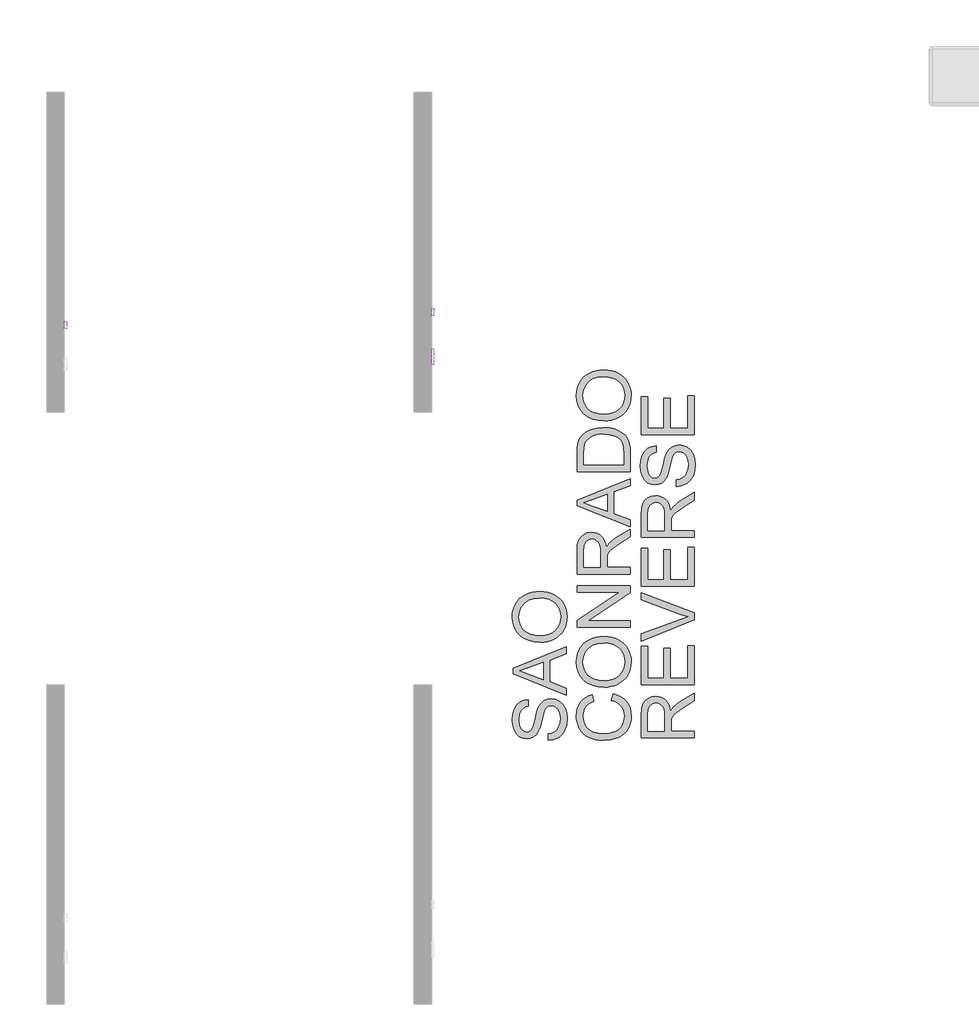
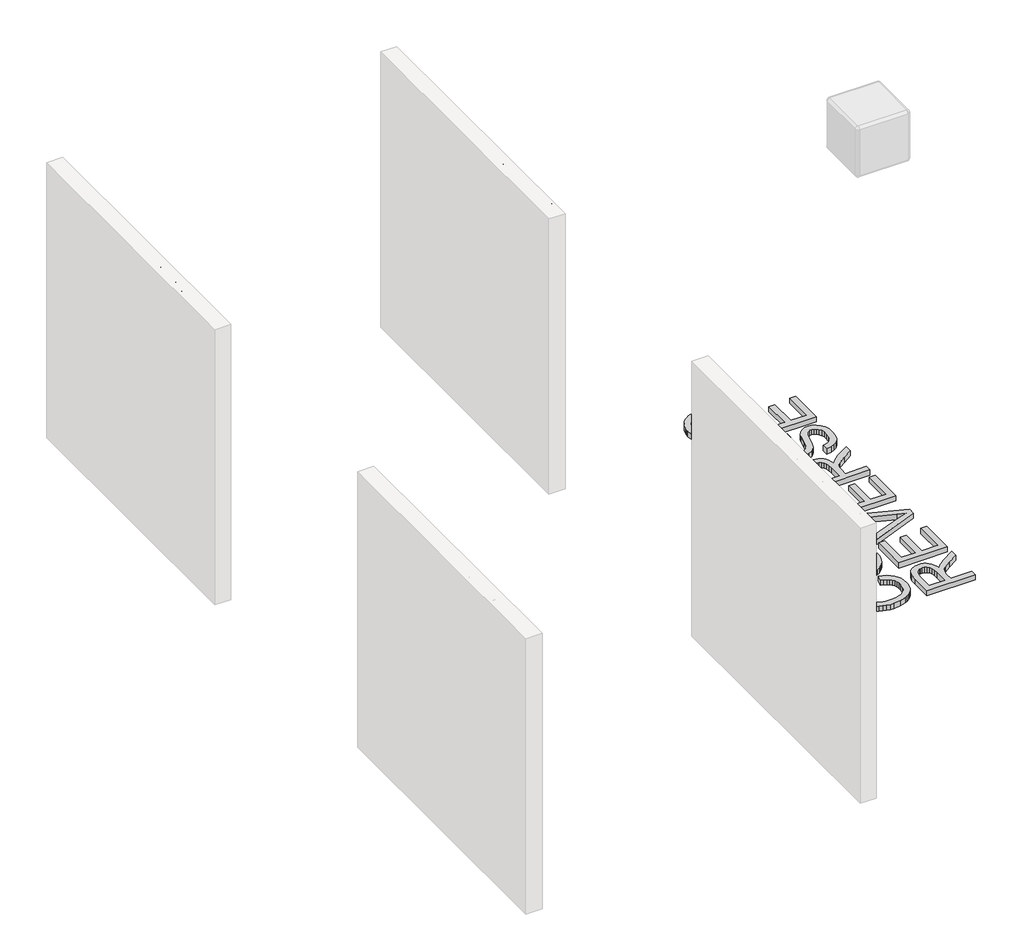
# One storey, part 6 of 7: 4 proxies.
"""IFC4 building model written with IfcOpenShell, lengths in millimetres."""

from ifc_helpers import new_model, si_unit, frame, origin, origin_with_axes, place, context, project, spatial, polyline, outline, extrude, element, save

model = new_model("IFC4")

# Units and contexts
model_context = context("Model", 3, world=origin())
ifc_project = project(units=[si_unit("LENGTHUNIT", "METRE", prefix="MILLI")], contexts=[model_context])

# Site, building, storey
site = spatial("IfcSite", under=ifc_project)
building = spatial("IfcBuilding", under=site)
storey = spatial("IfcBuildingStorey", under=building, Name="PORTOBELLO - SHOWROOM", Elevation=0.0)

# Proxies
placement = place(None, origin())
element("IfcBuildingElementProxy", 1, Name="10mm Arial", ObjectType="10mm Arial", at=placement, inside=storey, context=model_context, shape_type="SweptSolid", body=[
    extrude(outline(polyline([(5999.2437115, 2593.9527041), (6002.5914377, 2616.1666452), (6012.6346161, 2632.972721), (6027.969164, 2643.5493284), (6047.1909982, 2647.0748642), (6060.367305, 2645.4193952), (6072.1824484, 2640.4529883), (6081.992635, 2632.5251313), (6089.1540711, 2621.9853121), (6093.5318669, 2609.3424342), (6094.9911321, 2595.105401), (6093.4552248, 2580.6782954), (6088.8475028, 2567.8576079), (6081.4224179, 2557.2993946), (6071.4344217, 2549.6597119), (6059.7204458, 2545.0243987), (6047.1174218, 2543.4792944), (6033.7387799, 2545.1868799), (6021.8561915, 2550.3096367), (6012.0705304, 2558.3846465), (6004.9826706, 2568.9489912), (5999.2437115, 2593.9527041)]), holes=[polyline([(6011.8007503, 2593.8300768), (6014.3115449, 2578.1153842), (6021.8439287, 2566.1408253), (6033.1654971, 2558.5624562), (6047.0438454, 2556.0363331), (6061.1245288, 2558.5869816), (6072.4644913, 2566.2389271), (6079.9416928, 2578.5813681), (6082.4340934, 2595.2035029), (6078.1666622, 2615.9275219), (6065.6954626, 2629.6495204), (6047.2645746, 2634.5178254), (6033.757174, 2632.1725777), (6022.2731244, 2625.1368345), (6014.4188438, 2612.6196497), (6011.8007503, 2593.8300768)])]), frame((47110.9355471, 0.0, 0.0), z_axis=(1.0, 0.0, 0.0), x_axis=(0.0, 1.0, 0.0)), (0.0, 0.0, 1.0), 20.0),
    extrude(outline(polyline([(6154.6370663, 2545.0489242), (6154.6370663, 2606.2644882), (6143.6496573, 2606.2644882), (6143.6496573, 2618.821527), (6154.6370663, 2618.821527), (6154.6370663, 2626.2527433), (6155.9614415, 2636.7251174), (6162.3871136, 2644.2053846), (6175.0422543, 2647.0748642), (6186.4956471, 2645.7014381), (6184.6562371, 2633.9292142), (6177.4212245, 2634.5178254), (6169.5117616, 2632.4331608), (6167.194105, 2624.658588), (6167.194105, 2618.821527), (6181.3207737, 2618.821527), (6181.3207737, 2606.2644882), (6167.194105, 2606.2644882), (6167.194105, 2545.0489242), (6154.6370663, 2545.0489242)])), frame((47110.9355471, 0.0, 0.0), z_axis=(1.0, 0.0, 0.0), x_axis=(0.0, 1.0, 0.0)), (0.0, 0.0, 1.0), 20.0),
    extrude(outline(polyline([(6113.8266903, 2545.0489242), (6113.8266903, 2606.2644882), (6102.8392813, 2606.2644882), (6102.8392813, 2618.821527), (6113.8266903, 2618.821527), (6113.8266903, 2626.2527433), (6115.1510655, 2636.7251174), (6121.5767376, 2644.2053846), (6134.2318783, 2647.0748642), (6145.6852711, 2645.7014381), (6143.8458611, 2633.9292142), (6136.6108485, 2634.5178254), (6128.7013856, 2632.4331608), (6126.383729, 2624.658588), (6126.383729, 2618.821527), (6140.5103977, 2618.821527), (6140.5103977, 2606.2644882), (6126.383729, 2606.2644882), (6126.383729, 2545.0489242), (6113.8266903, 2545.0489242)])), frame((47110.9355471, 0.0, 0.0), z_axis=(1.0, 0.0, 0.0), x_axis=(0.0, 1.0, 0.0)), (0.0, 0.0, 1.0), 20.0),
    extrude(outline(polyline([(6251.0957254, 2545.0489242), (6223.7007795, 2645.5052343), (6236.6502257, 2645.5052343), (6252.5427279, 2579.4826789), (6257.4478212, 2559.1020164), (6262.696271, 2577.1282342), (6282.6109497, 2645.5052343), (6301.2748295, 2645.5052343), (6315.7448547, 2595.9392669), (6326.5115344, 2559.1020164), (6331.2694749, 2578.8940678), (6347.3091299, 2645.5052343), (6360.2585761, 2645.5052343), (6332.8391047, 2545.0489242), (6319.4236746, 2545.0489242), (6295.3396667, 2622.5493978), (6291.9796778, 2633.3651285), (6288.202756, 2620.3421059), (6266.2524636, 2545.0489242), (6251.0957254, 2545.0489242)])), frame((47110.9355471, 0.0, 0.0), z_axis=(1.0, 0.0, 0.0), x_axis=(0.0, 1.0, 0.0)), (0.0, 0.0, 1.0), 20.0),
    extrude(outline(polyline([(6371.245985, 2545.0489242), (6371.245985, 2645.5052343), (6383.8030238, 2645.5052343), (6383.8030238, 2608.569882), (6393.5948162, 2617.4358381), (6405.6552143, 2620.3911568), (6419.7573575, 2617.166058), (6428.3167452, 2608.251051), (6430.8919192, 2591.7454121), (6430.8919192, 2545.0489242), (6418.3348804, 2545.0489242), (6418.3348804, 2590.4455624), (6414.3372294, 2603.6893142), (6403.0064639, 2607.834118), (6392.7180308, 2605.0382149), (6385.8509002, 2597.4598458), (6383.8030238, 2584.2406194), (6383.8030238, 2545.0489242), (6371.245985, 2545.0489242)])), frame((47110.9355471, 0.0, 0.0), z_axis=(1.0, 0.0, 0.0), x_axis=(0.0, 1.0, 0.0)), (0.0, 0.0, 1.0), 20.0),
    extrude(outline(polyline([(47130.9355471, 6460.7148863), (47130.9355471, 6448.1578475), (47110.9355471, 6448.1578475), (47110.9355471, 6460.7148863), (47130.9355471, 6460.7148863)])), frame((0.0, 0.0, 2632.9481956), z_axis=(0.0, 0.0, 1.0), x_axis=(1.0, 0.0, 0.0)), (0.0, 0.0, 1.0), 12.5570388),
    extrude(outline(polyline([(47130.9355471, 6460.7148863), (47130.9355471, 6448.1578475), (47110.9355471, 6448.1578475), (47110.9355471, 6460.7148863), (47130.9355471, 6460.7148863)])), frame((0.0, 0.0, 2545.0489242), z_axis=(0.0, 0.0, 1.0), x_axis=(1.0, 0.0, 0.0)), (0.0, 0.0, 1.0), 73.7726028),
    extrude(outline(polyline([(6506.2341518, 2555.5212983), (6507.8037816, 2544.6810422), (6498.410528, 2543.4792944), (6487.889103, 2545.563959), (6482.6406532, 2551.033138), (6481.1200743, 2565.2824339), (6481.1200743, 2606.2644882), (6471.7022952, 2606.2644882), (6471.7022952, 2618.821527), (6481.1200743, 2618.821527), (6481.1200743, 2636.7496429), (6493.677113, 2644.1318082), (6493.677113, 2618.821527), (6506.2341518, 2618.821527), (6506.2341518, 2606.2644882), (6493.677113, 2606.2644882), (6493.677113, 2565.6503159), (6494.3393006, 2559.1755928), (6496.4852789, 2556.8824617), (6500.7649728, 2556.0363331), (6506.2341518, 2555.5212983)])), frame((47110.9355471, 0.0, 0.0), z_axis=(1.0, 0.0, 0.0), x_axis=(0.0, 1.0, 0.0)), (0.0, 0.0, 1.0), 20.0),
    extrude(outline(polyline([(6570.4418227, 2567.023742), (6582.7536068, 2565.4541122), (6578.3175631, 2556.1773546), (6571.2389003, 2549.2427789), (6561.6770342, 2544.9201655), (6549.79138, 2543.4792944), (6535.0577061, 2545.9655635), (6523.7208093, 2553.424371), (6516.4919281, 2565.3713387), (6514.082301, 2581.3220889), (6516.5164536, 2597.8093337), (6523.8189112, 2610.1395119), (6535.0025238, 2617.8282456), (6549.0801415, 2620.3911568), (6562.7193665, 2617.8343769), (6573.6178706, 2610.1640373), (6580.7639783, 2597.8583846), (6583.1460143, 2581.3956653), (6583.0724379, 2578.011151), (6526.6393398, 2578.011151), (6528.8129092, 2568.611766), (6533.8620896, 2561.7017158), (6541.1492188, 2557.4526788), (6550.0366347, 2556.0363331), (6562.3484188, 2558.660558), (6570.4418227, 2567.023742)]), holes=[polyline([(6526.6393398, 2590.5681897), (6570.5889755, 2590.5681897), (6565.5612549, 2601.9480061), (6558.2404032, 2606.3625901), (6549.0310906, 2607.834118), (6533.567784, 2603.1374912), (6528.7025446, 2597.6468525), (6526.6393398, 2590.5681897)])]), frame((47110.9355471, 0.0, 0.0), z_axis=(1.0, 0.0, 0.0), x_axis=(0.0, 1.0, 0.0)), (0.0, 0.0, 1.0), 20.0),
])
element("IfcBuildingElementProxy", 2, Name="10mm Arial Narrow", ObjectType="10mm Arial Narrow", at=placement, inside=storey, context=model_context, shape_type="SweptSolid", body=[
    extrude(outline(polyline([(6636.0876602, 2545.0489242), (6636.0876602, 2645.767528), (6667.3845449, 2645.767528), (6683.6802464, 2643.8892072), (6695.1532325, 2634.408764), (6699.4429109, 2617.3896552), (6697.6566025, 2605.3138297), (6692.2976773, 2595.6874359), (6682.5538885, 2589.3861775), (6667.6129893, 2587.285758), (6645.8346218, 2587.285758), (6645.8346218, 2545.0489242), (6636.0876602, 2545.0489242)]), holes=[polyline([(6645.8346218, 2598.6572133), (6668.8059768, 2598.6572133), (6684.6701722, 2603.1880275), (6689.6959493, 2616.8566183), (6687.2211348, 2627.0223947), (6681.243506, 2632.8223445), (6668.5775323, 2634.3960727), (6645.8346218, 2634.3960727), (6645.8346218, 2598.6572133)])]), frame((47110.9355471, 0.0, 0.0), z_axis=(1.0, 0.0, 0.0), x_axis=(0.0, 1.0, 0.0)), (0.0, 0.0, 1.0), 20.0),
    extrude(outline(polyline([(6707.565379, 2581.6000304), (6709.5198478, 2598.1908059), (6715.3832545, 2610.1428908), (6724.2418212, 2617.3674453), (6735.1817703, 2619.7756302), (6745.9948059, 2617.3674453), (6754.8787553, 2610.1428908), (6760.8183101, 2598.3811763), (6762.7981617, 2582.3615118), (6760.8532113, 2565.1996252), (6755.0183602, 2553.05717), (6746.169312, 2545.8326155), (6735.1817703, 2543.4244306), (6724.3211421, 2545.8389611), (6715.4467112, 2553.0825527), (6709.535712, 2565.0409832), (6707.565379, 2581.6000304)]), holes=[polyline([(6717.3123406, 2581.6254131), (6718.6163775, 2569.0736617), (6722.5284881, 2560.2024036), (6728.3696848, 2554.9291451), (6735.4609802, 2553.1713922), (6742.1810533, 2554.9450093), (6747.8731266, 2560.2658604), (6751.7566817, 2569.1529827), (6753.0512, 2581.6254131), (6751.7471631, 2594.1390904), (6747.8350526, 2602.9976572), (6741.9938558, 2608.2709157), (6734.9025605, 2610.0286686), (6728.1348947, 2608.2613972), (6722.4523399, 2602.9595831), (6718.5973404, 2594.0914979), (6717.3123406, 2581.6254131)])]), frame((47110.9355471, 0.0, 0.0), z_axis=(1.0, 0.0, 0.0), x_axis=(0.0, 1.0, 0.0)), (0.0, 0.0, 1.0), 20.0),
    extrude(outline(polyline([(6834.2758805, 2553.1713922), (6835.9003741, 2543.4244306), (6828.5393874, 2543.4244306), (6820.2646231, 2545.5438871), (6815.9495619, 2551.3438369), (6814.7819571, 2565.9896621), (6814.7819571, 2608.4041749), (6806.6594891, 2608.4041749), (6806.6594891, 2611.6531622), (6805.0349955, 2606.7796813), (6797.4709471, 2608.4041749), (6791.3917875, 2606.0816567), (6787.5209238, 2599.5963737), (6785.5410722, 2584.1890671), (6785.5410722, 2545.0489242), (6775.7941105, 2545.0489242), (6775.7941105, 2618.1511366), (6785.5410722, 2618.1511366), (6785.5410722, 2608.4549404), (6791.7852195, 2617.5419515), (6798.1816631, 2619.7756302), (6806.6594891, 2618.1511366), (6814.7819571, 2618.1511366), (6814.7819571, 2634.3960727), (6824.5289188, 2642.5185407), (6824.5289188, 2618.1511366), (6834.2758805, 2618.1511366), (6834.2758805, 2608.4041749), (6824.5289188, 2608.4041749), (6824.5289188, 2563.7559834), (6825.391931, 2555.7604289), (6830.0115847, 2553.1713922), (6834.2758805, 2553.1713922)])), frame((47110.9355471, 0.0, 0.0), z_axis=(1.0, 0.0, 0.0), x_axis=(0.0, 1.0, 0.0)), (0.0, 0.0, 1.0), 20.0),
    extrude(outline(polyline([(6840.7738549, 2581.6000304), (6842.7283238, 2598.1908059), (6848.5917304, 2610.1428908), (6857.4502971, 2617.3674453), (6868.3902462, 2619.7756302), (6879.2032818, 2617.3674453), (6888.0872313, 2610.1428908), (6894.026786, 2598.3811763), (6896.0066376, 2582.3615118), (6894.0616872, 2565.1996252), (6888.2268362, 2553.05717), (6879.377788, 2545.8326155), (6868.3902462, 2543.4244306), (6857.5296181, 2545.8389611), (6848.6551872, 2553.0825527), (6842.744188, 2565.0409832), (6840.7738549, 2581.6000304)]), holes=[polyline([(6850.5208165, 2581.6254131), (6851.8248534, 2569.0736617), (6855.736964, 2560.2024036), (6861.5781607, 2554.9291451), (6868.6694561, 2553.1713922), (6875.3895293, 2554.9450093), (6881.0816026, 2560.2658604), (6884.9651576, 2569.1529827), (6886.2596759, 2581.6254131), (6884.9556391, 2594.1390904), (6881.0435285, 2602.9976572), (6875.2023317, 2608.2709157), (6868.1110364, 2610.0286686), (6861.3433706, 2608.2613972), (6855.6608159, 2602.9595831), (6851.8058164, 2594.0914979), (6850.5208165, 2581.6254131)])]), frame((47110.9355471, 0.0, 0.0), z_axis=(1.0, 0.0, 0.0), x_axis=(0.0, 1.0, 0.0)), (0.0, 0.0, 1.0), 20.0),
    extrude(outline(polyline([(6918.7495481, 2545.0489242), (6909.0025865, 2545.0489242), (6909.0025865, 2645.767528), (6918.7495481, 2645.767528), (6918.7495481, 2610.3586438), (6926.1486089, 2617.4404206), (6935.3498422, 2619.7756302), (6948.2315689, 2615.5747913), (6957.5089503, 2602.8453609), (6960.986382, 2582.1584501), (6959.054123, 2565.7041066), (6953.257346, 2553.5013675), (6944.8842236, 2545.9436648), (6935.2229286, 2543.4244306), (6925.8820904, 2546.03885), (6918.7495481, 2553.8059601), (6918.7495481, 2545.0489242)]), holes=[polyline([(6918.7495481, 2582.1584501), (6920.8309306, 2564.9108968), (6926.7197199, 2556.1792437), (6935.1721632, 2553.1713922), (6941.1148908, 2554.9608735), (6946.3532481, 2560.3293172), (6951.2394203, 2581.7523267), (6946.5309271, 2603.1880275), (6941.2862241, 2608.3185083), (6934.9691015, 2610.0286686), (6928.9914727, 2608.2391873), (6923.6991771, 2602.8707436), (6918.7495481, 2582.1584501)])]), frame((47110.9355471, 0.0, 0.0), z_axis=(1.0, 0.0, 0.0), x_axis=(0.0, 1.0, 0.0)), (0.0, 0.0, 1.0), 20.0),
    extrude(outline(polyline([(7012.9701774, 2567.7918347), (7022.7171391, 2566.1673411), (7019.0176087, 2556.2807745), (7013.1986219, 2549.1609236), (7005.4949686, 2544.8585539), (6996.141439, 2543.4244306), (6984.547885, 2545.8389611), (6975.4037627, 2553.0825527), (6969.464208, 2564.888687), (6967.4843564, 2580.9908453), (6969.4737265, 2597.657769), (6975.4418368, 2609.8382982), (6984.4558726, 2617.2912972), (6995.5830193, 2619.7756302), (7006.2659685, 2617.3769639), (7015.0134858, 2610.1809648), (7020.8483369, 2598.4414602), (7022.7932872, 2582.4122772), (7022.7171391, 2579.16329), (6977.231318, 2579.16329), (6983.2343296, 2559.7201321), (6989.1643658, 2554.8085772), (6996.2683525, 2553.1713922), (7006.4468203, 2556.8265029), (7012.9701774, 2567.7918347)]), holes=[polyline([(6977.8912686, 2588.9102516), (7012.9701774, 2588.9102516), (7008.7058817, 2603.1753361), (7002.8805492, 2608.3153355), (6995.6591674, 2610.0286686), (6983.4500826, 2604.3175582), (6977.8912686, 2588.9102516)])]), frame((47110.9355471, 0.0, 0.0), z_axis=(1.0, 0.0, 0.0), x_axis=(0.0, 1.0, 0.0)), (0.0, 0.0, 1.0), 20.0),
    extrude(outline(polyline([(47130.9355471, 7045.4600496), (47130.9355471, 7035.713088), (47110.9355471, 7035.713088), (47110.9355471, 7045.4600496), (47130.9355471, 7045.4600496)])), frame((0.0, 0.0, 2545.0489242), z_axis=(0.0, 0.0, 1.0), x_axis=(1.0, 0.0, 0.0)), (0.0, 0.0, 1.0), 100.7186038),
    extrude(outline(polyline([(47130.9355471, 7071.4519474), (47130.9355471, 7061.7049857), (47110.9355471, 7061.7049857), (47110.9355471, 7071.4519474), (47130.9355471, 7071.4519474)])), frame((0.0, 0.0, 2545.0489242), z_axis=(0.0, 0.0, 1.0), x_axis=(1.0, 0.0, 0.0)), (0.0, 0.0, 1.0), 100.7186038),
    extrude(outline(polyline([(7082.8234026, 2581.6000304), (7084.7778715, 2598.1908059), (7090.6412781, 2610.1428908), (7099.4998448, 2617.3674453), (7110.439794, 2619.7756302), (7121.2528296, 2617.3674453), (7130.136779, 2610.1428908), (7136.0763337, 2598.3811763), (7138.0561853, 2582.3615118), (7136.111235, 2565.1996252), (7130.2763839, 2553.05717), (7121.4273357, 2545.8326155), (7110.439794, 2543.4244306), (7099.5791658, 2545.8389611), (7090.7047349, 2553.0825527), (7084.7937357, 2565.0409832), (7082.8234026, 2581.6000304)]), holes=[polyline([(7092.5703643, 2581.6254131), (7093.8744011, 2569.0736617), (7097.7865117, 2560.2024036), (7103.6277085, 2554.9291451), (7110.7190038, 2553.1713922), (7117.439077, 2554.9450093), (7123.1311503, 2560.2658604), (7127.0147053, 2569.1529827), (7128.3092237, 2581.6254131), (7127.0051868, 2594.1390904), (7123.0930762, 2602.9976572), (7117.2518795, 2608.2709157), (7110.1605841, 2610.0286686), (7103.3929184, 2608.2613972), (7097.7103636, 2602.9595831), (7093.8553641, 2594.0914979), (7092.5703643, 2581.6254131)])]), frame((47110.9355471, 0.0, 0.0), z_axis=(1.0, 0.0, 0.0), x_axis=(0.0, 1.0, 0.0)), (0.0, 0.0, 1.0), 20.0),
])
element("IfcBuildingElementProxy", 3, Name="10mm Arial Narrow", ObjectType="10mm Arial Narrow", at=placement, inside=storey, context=model_context, shape_type="SweptSolid", body=[
    extrude(outline(polyline([(6527.3853689, 2540.5717262), (6527.3853689, 2641.29033), (6558.6822536, 2641.29033), (6574.9779551, 2639.4120093), (6586.4509412, 2629.9315661), (6590.7406197, 2612.9124573), (6588.9543113, 2600.8366317), (6583.5953861, 2591.210238), (6573.8515972, 2584.9089795), (6558.910698, 2582.8085601), (6537.1323306, 2582.8085601), (6537.1323306, 2540.5717262), (6527.3853689, 2540.5717262)]), holes=[polyline([(6537.1323306, 2594.1800153), (6560.1036855, 2594.1800153), (6575.9678809, 2598.7108295), (6580.993658, 2612.3794203), (6578.5188435, 2622.5451967), (6572.5412147, 2628.3451466), (6559.8752411, 2629.9188747), (6537.1323306, 2629.9188747), (6537.1323306, 2594.1800153)])]), frame((44010.9355471, 0.0, 0.0), z_axis=(1.0, 0.0, 0.0), x_axis=(0.0, 1.0, 0.0)), (0.0, 0.0, 1.0), 20.0),
    extrude(outline(polyline([(6598.8630877, 2577.1228324), (6600.8175566, 2593.713608), (6606.6809632, 2605.6656928), (6615.5395299, 2612.8902474), (6626.4794791, 2615.2984323), (6637.2925146, 2612.8902474), (6646.1764641, 2605.6656928), (6652.1160188, 2593.9039783), (6654.0958704, 2577.8843138), (6652.1509201, 2560.7224272), (6646.316069, 2548.5799721), (6637.4670208, 2541.3554175), (6626.4794791, 2538.9472326), (6615.6188509, 2541.3617632), (6606.74442, 2548.6053548), (6600.8334208, 2560.5637853), (6598.8630877, 2577.1228324)]), holes=[polyline([(6608.6100494, 2577.1482152), (6609.9140862, 2564.5964638), (6613.8261968, 2555.7252057), (6619.6673935, 2550.4519471), (6626.7586889, 2548.6941943), (6633.4787621, 2550.4678113), (6639.1708354, 2555.7886625), (6643.0543904, 2564.6757847), (6644.3489088, 2577.1482152), (6643.0448719, 2589.6618925), (6639.1327613, 2598.5204592), (6633.2915646, 2603.7937178), (6626.2002692, 2605.5514706), (6619.4326035, 2603.7841992), (6613.7500487, 2598.4823851), (6609.8950492, 2589.6142999), (6608.6100494, 2577.1482152)])]), frame((44010.9355471, 0.0, 0.0), z_axis=(1.0, 0.0, 0.0), x_axis=(0.0, 1.0, 0.0)), (0.0, 0.0, 1.0), 20.0),
    extrude(outline(polyline([(6725.5735892, 2548.6941943), (6727.1980828, 2538.9472326), (6719.8370961, 2538.9472326), (6711.5623318, 2541.0666891), (6707.2472707, 2546.866639), (6706.0796659, 2561.5124642), (6706.0796659, 2603.926977), (6697.9571978, 2603.926977), (6697.9571978, 2607.1759642), (6696.3327042, 2602.3024834), (6688.7686559, 2603.926977), (6682.6894962, 2601.6044588), (6678.8186325, 2595.1191757), (6676.8387809, 2579.7118691), (6676.8387809, 2540.5717262), (6667.0918193, 2540.5717262), (6667.0918193, 2613.6739386), (6676.8387809, 2613.6739386), (6676.8387809, 2603.9777424), (6683.0829282, 2613.0647535), (6689.4793718, 2615.2984323), (6697.9571978, 2613.6739386), (6706.0796659, 2613.6739386), (6706.0796659, 2629.9188747), (6715.8266275, 2638.0413428), (6715.8266275, 2613.6739386), (6725.5735892, 2613.6739386), (6725.5735892, 2603.926977), (6715.8266275, 2603.926977), (6715.8266275, 2559.2787855), (6716.6896398, 2551.283231), (6721.3092935, 2548.6941943), (6725.5735892, 2548.6941943)])), frame((44010.9355471, 0.0, 0.0), z_axis=(1.0, 0.0, 0.0), x_axis=(0.0, 1.0, 0.0)), (0.0, 0.0, 1.0), 20.0),
    extrude(outline(polyline([(6732.0715636, 2577.1228324), (6734.0260325, 2593.713608), (6739.8894391, 2605.6656928), (6748.7480058, 2612.8902474), (6759.687955, 2615.2984323), (6770.5009906, 2612.8902474), (6779.38494, 2605.6656928), (6785.3244948, 2593.9039783), (6787.3043463, 2577.8843138), (6785.359396, 2560.7224272), (6779.5245449, 2548.5799721), (6770.6754967, 2541.3554175), (6759.687955, 2538.9472326), (6748.8273268, 2541.3617632), (6739.9528959, 2548.6053548), (6734.0418967, 2560.5637853), (6732.0715636, 2577.1228324)]), holes=[polyline([(6741.8185253, 2577.1482152), (6743.1225621, 2564.5964638), (6747.0346727, 2555.7252057), (6752.8758695, 2550.4519471), (6759.9671648, 2548.6941943), (6766.687238, 2550.4678113), (6772.3793113, 2555.7886625), (6776.2628663, 2564.6757847), (6777.5573847, 2577.1482152), (6776.2533478, 2589.6618925), (6772.3412372, 2598.5204592), (6766.5000405, 2603.7937178), (6759.4087451, 2605.5514706), (6752.6410794, 2603.7841992), (6746.9585246, 2598.4823851), (6743.1035251, 2589.6142999), (6741.8185253, 2577.1482152)])]), frame((44010.9355471, 0.0, 0.0), z_axis=(1.0, 0.0, 0.0), x_axis=(0.0, 1.0, 0.0)), (0.0, 0.0, 1.0), 20.0),
    extrude(outline(polyline([(6810.0472569, 2540.5717262), (6800.3002952, 2540.5717262), (6800.3002952, 2641.29033), (6810.0472569, 2641.29033), (6810.0472569, 2605.8814459), (6817.4463176, 2612.9632227), (6826.6475509, 2615.2984323), (6839.5292776, 2611.0975933), (6848.8066591, 2598.3681629), (6852.2840907, 2577.6812521), (6850.3518317, 2561.2269087), (6844.5550547, 2549.0241696), (6836.1819324, 2541.4664669), (6826.5206374, 2538.9472326), (6817.1797991, 2541.561652), (6810.0472569, 2549.3287621), (6810.0472569, 2540.5717262)]), holes=[polyline([(6810.0472569, 2577.6812521), (6812.1286393, 2560.4336989), (6818.0174286, 2551.7020457), (6826.4698719, 2548.6941943), (6832.4125995, 2550.4836755), (6837.6509569, 2555.8521193), (6842.537129, 2577.2751287), (6837.8286358, 2598.7108295), (6832.5839328, 2603.8413103), (6826.2668102, 2605.5514706), (6820.2891814, 2603.7619894), (6814.9968858, 2598.3935456), (6810.0472569, 2577.6812521)])]), frame((44010.9355471, 0.0, 0.0), z_axis=(1.0, 0.0, 0.0), x_axis=(0.0, 1.0, 0.0)), (0.0, 0.0, 1.0), 20.0),
    extrude(outline(polyline([(6904.2678862, 2563.3146368), (6914.0148478, 2561.6901432), (6910.3153175, 2551.8035766), (6904.4963306, 2544.6837257), (6896.7926773, 2540.3813559), (6887.4391477, 2538.9472326), (6875.8455937, 2541.3617632), (6866.7014715, 2548.6053548), (6860.7619167, 2560.411489), (6858.7820651, 2576.5136473), (6860.7714352, 2593.180571), (6866.7395455, 2605.3611003), (6875.7535814, 2612.8140993), (6886.880728, 2615.2984323), (6897.5636772, 2612.8997659), (6906.3111945, 2605.7037669), (6912.1460456, 2593.9642623), (6914.090996, 2577.9350793), (6914.0148478, 2574.686092), (6868.5290268, 2574.686092), (6874.5320383, 2555.2429342), (6880.4620746, 2550.3313793), (6887.5660613, 2548.6941943), (6897.744529, 2552.3493049), (6904.2678862, 2563.3146368)]), holes=[polyline([(6869.1889773, 2584.4330537), (6904.2678862, 2584.4330537), (6900.0035905, 2598.6981382), (6894.1782579, 2603.8381375), (6886.9568762, 2605.5514706), (6874.7477914, 2599.8403603), (6869.1889773, 2584.4330537)])]), frame((44010.9355471, 0.0, 0.0), z_axis=(1.0, 0.0, 0.0), x_axis=(0.0, 1.0, 0.0)), (0.0, 0.0, 1.0), 20.0),
    extrude(outline(polyline([(44030.9355471, 6936.7577584), (44030.9355471, 6927.0107967), (44010.9355471, 6927.0107967), (44010.9355471, 6936.7577584), (44030.9355471, 6936.7577584)])), frame((0.0, 0.0, 2540.5717262), z_axis=(0.0, 0.0, 1.0), x_axis=(1.0, 0.0, 0.0)), (0.0, 0.0, 1.0), 100.7186038),
    extrude(outline(polyline([(44030.9355471, 6962.7496561), (44030.9355471, 6953.0026944), (44010.9355471, 6953.0026944), (44010.9355471, 6962.7496561), (44030.9355471, 6962.7496561)])), frame((0.0, 0.0, 2540.5717262), z_axis=(0.0, 0.0, 1.0), x_axis=(1.0, 0.0, 0.0)), (0.0, 0.0, 1.0), 100.7186038),
    extrude(outline(polyline([(6974.1211114, 2577.1228324), (6976.0755802, 2593.713608), (6981.9389869, 2605.6656928), (6990.7975536, 2612.8902474), (7001.7375027, 2615.2984323), (7012.5505383, 2612.8902474), (7021.4344877, 2605.6656928), (7027.3740425, 2593.9039783), (7029.3538941, 2577.8843138), (7027.4089437, 2560.7224272), (7021.5740926, 2548.5799721), (7012.7250444, 2541.3554175), (7001.7375027, 2538.9472326), (6990.8768745, 2541.3617632), (6982.0024436, 2548.6053548), (6976.0914444, 2560.5637853), (6974.1211114, 2577.1228324)]), holes=[polyline([(6983.868073, 2577.1482152), (6985.1721099, 2564.5964638), (6989.0842205, 2555.7252057), (6994.9254172, 2550.4519471), (7002.0167126, 2548.6941943), (7008.7367857, 2550.4678113), (7014.428859, 2555.7886625), (7018.3124141, 2564.6757847), (7019.6069324, 2577.1482152), (7018.3028956, 2589.6618925), (7014.390785, 2598.5204592), (7008.5495882, 2603.7937178), (7001.4582929, 2605.5514706), (6994.6906271, 2603.7841992), (6989.0080723, 2598.4823851), (6985.1530728, 2589.6142999), (6983.868073, 2577.1482152)])]), frame((44010.9355471, 0.0, 0.0), z_axis=(1.0, 0.0, 0.0), x_axis=(0.0, 1.0, 0.0)), (0.0, 0.0, 1.0), 20.0),
])
element("IfcBuildingElementProxy", 4, Name="450mm Arial", ObjectType="450mm Arial", at=placement, inside=storey, context=model_context, shape_type="SweptSolid", body=[
    extrude(outline(polyline([(48093.7700581, 3053.0768165), (48093.7700581, 3109.2838344), (48124.9611107, 3115.7333701), (48150.0319656, 3127.3974241), (48169.9294695, 3145.5933483), (48185.6004691, 3171.6384948), (48195.7687797, 3203.474501), (48199.1582166, 3239.0430045), (48196.5921247, 3270.3575589), (48188.8938491, 3297.774947), (48176.7083432, 3319.9915392), (48160.6805608, 3335.7037061), (48142.2788003, 3345.0486717), (48122.9713604, 3348.1636602), (48104.1579274, 3345.8308494), (48087.8968639, 3338.832417), (48074.0235008, 3324.6159936), (48062.3731692, 3300.6292096), (48040.9113099, 3218.7887178), (48026.7086088, 3165.0654573), (48013.1920286, 3130.6908041), (47994.2825387, 3102.7107969), (47971.3661032, 3082.8819051), (47944.9367291, 3071.0669045), (47915.4884234, 3067.128571), (47882.5683463, 3072.0000288), (47851.8713006, 3086.6144024), (47825.853599, 3110.5874639), (47806.9715539, 3143.5349859), (47795.4858913, 3183.0829901), (47791.6573372, 3226.8574987), (47795.6642828, 3274.28217), (47807.6851196, 3315.7787574), (47827.4728441, 3349.8652399), (47854.7804529, 3375.0595965), (47887.9063663, 3391.0050444), (47925.1490046, 3397.3448009), (47925.1490046, 3341.137783), (47907.2138062, 3337.3778409), (47891.6114187, 3330.8185258), (47878.341842, 3321.4598378), (47867.4050761, 3309.3017768), (47858.8560106, 3294.117923), (47852.7495353, 3275.6818565), (47847.864355, 3229.0530853), (47852.6946456, 3181.3265208), (47858.7325088, 3163.0825681), (47867.1855174, 3148.5848351), (47888.5101526, 3129.6479004), (47900.6750748, 3124.9136667), (47913.8417334, 3123.3355888), (47935.4408169, 3127.8090966), (47952.8133962, 3141.2296199), (47968.3471716, 3172.9558468), (47984.210285, 3233.0051412), (47999.2774983, 3294.975574), (48012.4235733, 3332.4652158), (48032.8150842, 3364.5070582), (48057.981996, 3386.8608747), (48087.6498604, 3399.9932272), (48121.544229, 3404.3706781), (48156.1933306, 3399.3345512), (48188.7840697, 3384.2261707), (48216.832689, 3359.6630452), (48237.855431, 3326.2626836), (48250.9877836, 3286.0971706), (48255.3652344, 3241.2385911), (48250.6447232, 3186.1705338), (48236.4831894, 3140.8453922), (48225.8483166, 3121.7060519), (48212.8257434, 3104.7417145), (48197.4154697, 3089.9523802), (48179.6174955, 3077.3380488), (48139.1638118, 3059.7459109), (48093.7700581, 3053.0768165)])), origin_with_axes(), (0.0, 0.0, 1.0), 50.0),
    extrude(outline(polyline([(48248.3393572, 3436.3164636), (47798.6832144, 3615.805671), (47798.6832144, 3663.6694597), (48248.3393572, 3843.1586671), (48248.3393572, 3783.7680486), (48107.8218126, 3732.281542), (48107.8218126, 3547.0838094), (48248.3393572, 3495.7070821), (48248.3393572, 3436.3164636)]), holes=[polyline([(48051.6147947, 3567.7223237), (48051.6147947, 3711.752807), (47941.0670077, 3671.2442336), (47854.8902322, 3639.7375653), (47931.4064265, 3611.7438357), (48051.6147947, 3567.7223237)])]), origin_with_axes(), (0.0, 0.0, 1.0), 50.0),
    extrude(outline(polyline([(48029.4393697, 3882.1303298), (47976.697262, 3885.8765495), (47930.00674, 3897.1152086), (47889.3678036, 3915.8463071), (47854.7804529, 3942.069845), (47827.1640898, 3974.2146055), (47807.4381161, 4010.7093721), (47795.6025319, 4051.5541448), (47791.6573372, 4096.7489234), (47793.5098634, 4126.9999905), (47799.067442, 4155.7278694), (47808.3300732, 4182.93256), (47821.2977567, 4208.6140624), (47837.5794039, 4232.0519498), (47856.7839257, 4252.5257951), (47878.9113223, 4270.0355985), (47903.9615935, 4284.58136), (47931.3652592, 4296.0121329), (47960.552839, 4304.1769707), (47991.524333, 4309.0758734), (48024.2797411, 4310.708841), (48057.4674053, 4308.9901083), (48088.857433, 4303.8339103), (48118.4498241, 4295.240247), (48146.2445787, 4283.2091184), (48171.5075474, 4268.0252645), (48193.504581, 4249.9734257), (48212.2356795, 4229.0536018), (48227.7008428, 4205.2657928), (48239.8040142, 4179.5465538), (48248.4491365, 4152.8324395), (48253.63621, 4125.12345), (48255.3652344, 4096.4195854), (48253.4543879, 4065.6402053), (48247.7218485, 4036.5349599), (48238.167616, 4009.1038494), (48224.7916905, 3983.3468737), (48208.1120933, 3959.9364312), (48188.6468456, 3939.5449203), (48166.3959473, 3922.1723411), (48141.3593984, 3907.8186935), (48114.542366, 3896.5800344), (48086.9500171, 3888.5524207), (48058.5823517, 3883.7358526), (48029.4393697, 3882.1303298)]), holes=[polyline([(48029.9882664, 3938.3373477), (48067.2514883, 3941.1470125), (48100.3293732, 3949.5760068), (48129.2219211, 3963.6243306), (48153.9291319, 3983.291984), (48173.7168565, 4007.1998641), (48187.8509454, 4033.968868), (48196.3313988, 4063.5989958), (48199.1582166, 4096.0902474), (48196.303954, 4129.1372569), (48187.7411661, 4159.1173062), (48173.469853, 4186.0303955), (48153.4900146, 4209.8765247), (48128.2613519, 4229.4000928), (48098.2435659, 4243.3454985), (48063.4366565, 4251.712742), (48023.8406238, 4254.5018231), (47974.0831417, 4249.7264222), (47931.0770885, 4235.4002194), (47895.9065351, 4211.89372), (47869.6555524, 4179.5774292), (47853.3121543, 4140.592044), (47847.864355, 4097.0782614), (47850.4887672, 4065.7156785), (47858.3620036, 4036.6172944), (47871.4840644, 4009.783109), (47889.8549494, 3985.2131223), (47914.3597546, 3964.7049709), (47945.8835758, 3950.0562913), (47984.4264131, 3941.2670836), (48029.9882664, 3938.3373477)])]), origin_with_axes(), (0.0, 0.0, 1.0), 50.0),
    extrude(outline(polyline([(48628.9327334, 3390.3189236), (48643.4236052, 3446.5259415), (48678.3780305, 3435.4039229), (48708.920699, 3420.5905744), (48735.0516105, 3402.0858957), (48756.7707652, 3379.8898871), (48773.8448819, 3354.5034166), (48786.0406795, 3326.4273526), (48793.3581581, 3295.6616948), (48795.7973176, 3262.2064435), (48793.9516526, 3227.9312777), (48788.4146576, 3197.0112428), (48779.1863325, 3169.4463388), (48766.2666774, 3145.2365655), (48749.8478061, 3124.0491545), (48730.1218324, 3105.5513371), (48707.0887564, 3089.7431133), (48680.7485779, 3076.6244832), (48622.7027563, 3058.9637332), (48560.5402097, 3053.0768165), (48526.6389798, 3054.7406595), (48494.9745038, 3059.7321885), (48465.5467817, 3068.0514035), (48438.3558135, 3079.6983045), (48413.8510083, 3094.4121655), (48392.4817752, 3111.9322607), (48374.2481143, 3132.2585901), (48359.1500256, 3155.3911537), (48347.3110108, 3180.5443431), (48338.8545717, 3206.9325499), (48333.7807082, 3234.5557743), (48332.0894203, 3263.4140161), (48334.2781458, 3295.5622073), (48340.844322, 3325.0413885), (48351.7879492, 3351.8515597), (48367.1090272, 3375.9927208), (48386.4027447, 3397.0669219), (48409.2642905, 3414.6762129), (48435.6936647, 3428.8205936), (48465.6908671, 3439.5000642), (48479.0839455, 3383.2930464), (48438.0950875, 3363.807215), (48422.4275185, 3351.3884281), (48409.9778562, 3337.1857271), (48400.4922358, 3321.1167774), (48393.7167927, 3303.0992446), (48388.2964382, 3261.2184295), (48389.7990428, 3236.0034892), (48394.3068566, 3212.9429684), (48401.8198796, 3192.0368669), (48412.3381118, 3173.2851848), (48425.3881299, 3156.9246337), (48440.4965104, 3143.1919255), (48457.6632534, 3132.0870599), (48476.8883589, 3123.6100372), (48518.0281635, 3112.8653851), (48560.4304304, 3109.2838344), (48612.3560543, 3113.5240611), (48657.255801, 3126.2447411), (48676.6421448, 3135.9053223), (48693.4143683, 3147.9261591), (48707.5724715, 3162.3072516), (48719.1164544, 3179.0485997), (48734.4718384, 3216.3598501), (48739.5902998, 3256.6076976), (48737.8475529, 3281.0438907), (48732.6193122, 3303.5246395), (48723.9055777, 3324.0499439), (48711.7063495, 3342.619804), (48696.0765171, 3358.7951024), (48677.0709703, 3372.1367218), (48654.6897091, 3382.6446622), (48628.9327334, 3390.3189236)])), origin_with_axes(), (0.0, 0.0, 1.0), 50.0),
    extrude(outline(polyline([(48569.8714529, 3502.7329593), (48517.1293452, 3506.479179), (48470.4388232, 3517.7178381), (48429.7998868, 3536.4489366), (48395.2125361, 3562.6724745), (48367.5961729, 3594.817235), (48347.8701993, 3631.3120016), (48336.0346151, 3672.1567742), (48332.0894203, 3717.3515529), (48333.9419466, 3747.60262), (48339.4995252, 3776.3304989), (48348.7621563, 3803.5351895), (48361.7298399, 3829.2166919), (48378.011487, 3852.6545793), (48397.2160089, 3873.1284246), (48419.3434054, 3890.638228), (48444.3936767, 3905.1839895), (48471.7973424, 3916.6147624), (48500.9849222, 3924.7796002), (48531.9564162, 3929.6785029), (48564.7118243, 3931.3114705), (48597.8994885, 3929.5927378), (48629.2895162, 3924.4365398), (48658.8819073, 3915.8428765), (48686.6766619, 3903.8117479), (48711.9396306, 3888.627894), (48733.9366642, 3870.5760552), (48752.6677627, 3849.6562313), (48768.132926, 3825.8684223), (48780.2360973, 3800.1491832), (48788.8812197, 3773.435069), (48794.0682931, 3745.7260795), (48795.7973176, 3717.0222149), (48793.8864711, 3686.2428348), (48788.1539316, 3657.1375894), (48778.5996992, 3629.7064789), (48765.2237737, 3603.9495032), (48748.5441765, 3580.5390607), (48729.0789287, 3560.1475498), (48706.8280304, 3542.7749706), (48681.7914816, 3528.421323), (48654.9744492, 3517.1826639), (48627.3821003, 3509.1550502), (48599.0144349, 3504.3384821), (48569.8714529, 3502.7329593)]), holes=[polyline([(48570.4203495, 3558.9399772), (48607.6835715, 3561.749642), (48640.7614564, 3570.1786363), (48669.6540042, 3584.2269601), (48694.3612151, 3603.8946135), (48714.1489396, 3627.8024936), (48728.2830286, 3654.5714975), (48736.763482, 3684.2016253), (48739.5902998, 3716.6928769), (48736.7360371, 3749.7398864), (48728.1732493, 3779.7199357), (48713.9019361, 3806.633025), (48693.9220978, 3830.4791542), (48668.6934351, 3850.0027223), (48638.6756491, 3863.948128), (48603.8687397, 3872.3153715), (48564.272707, 3875.1044526), (48514.5152249, 3870.3290517), (48471.5091716, 3856.0028489), (48436.3386182, 3832.4963495), (48410.0876355, 3800.1800587), (48393.7442375, 3761.1946735), (48388.2964382, 3717.6808909), (48390.9208503, 3686.318308), (48398.7940868, 3657.2199239), (48411.9161475, 3630.3857385), (48430.2870326, 3605.8157518), (48454.7918378, 3585.3076004), (48486.315659, 3570.6589208), (48524.8584963, 3561.8697131), (48570.4203495, 3558.9399772)])]), origin_with_axes(), (0.0, 0.0, 1.0), 50.0),
    extrude(outline(polyline([(48788.7714404, 4008.59612), (48339.1152976, 4008.59612), (48339.1152976, 4068.7551938), (48695.3492291, 4303.6829637), (48339.1152976, 4303.6829637), (48339.1152976, 4359.8899816), (48788.7714404, 4359.8899816), (48788.7714404, 4299.7309078), (48432.4277295, 4064.8031379), (48788.7714404, 4064.8031379), (48788.7714404, 4008.59612)])), origin_with_axes(), (0.0, 0.0, 1.0), 50.0),
    extrude(outline(polyline([(48788.7714404, 4458.2522628), (48339.1152976, 4458.2522628), (48339.1152976, 4652.0127833), (48342.1479516, 4704.0893538), (48351.2459137, 4741.9769457), (48368.0421515, 4769.6687821), (48394.1696324, 4791.1580863), (48426.5682577, 4804.9491149), (48462.1779284, 4809.5461244), (48485.2727554, 4807.6421391), (48506.4738888, 4801.9301833), (48525.7813288, 4792.4102568), (48543.1950753, 4779.0823598), (48558.1593704, 4761.7749621), (48570.1184564, 4740.3165333), (48579.0723331, 4714.7070736), (48585.0210007, 4684.9465829), (48609.0626743, 4716.8923684), (48666.9163821, 4762.4507911), (48788.7714404, 4837.4300747), (48788.7714404, 4772.1113723), (48695.5687877, 4713.5989884), (48633.8728033, 4671.3339457), (48615.8827153, 4655.6217789), (48604.7263907, 4641.6386365), (48594.0229059, 4614.9073692), (48592.0468779, 4582.3029077), (48592.0468779, 4514.4592807), (48788.7714404, 4514.4592807), (48788.7714404, 4458.2522628)]), holes=[polyline([(48535.83986, 4514.4592807), (48535.83986, 4640.2663948), (48533.8501097, 4676.3975174), (48527.8808585, 4704.4324142), (48517.5341565, 4725.5374908), (48502.4120535, 4740.8791524), (48484.1200724, 4750.224118), (48464.2637358, 4753.3391065), (48449.8895045, 4751.853655), (48436.8463476, 4747.3973002), (48414.7532571, 4729.5718812), (48406.2522201, 4715.9626747), (48400.1800508, 4698.9022804), (48395.3223154, 4654.4279286), (48395.3223154, 4514.4592807), (48535.83986, 4514.4592807)])]), origin_with_axes(), (0.0, 0.0, 1.0), 50.0),
    extrude(outline(polyline([(48788.7714404, 4855.5436644), (48339.1152976, 5035.0328718), (48339.1152976, 5082.8966604), (48788.7714404, 5262.3858678), (48788.7714404, 5202.9952494), (48648.2538958, 5151.5087428), (48648.2538958, 4966.3110101), (48788.7714404, 4914.9342829), (48788.7714404, 4855.5436644)]), holes=[polyline([(48592.0468779, 4986.9495245), (48592.0468779, 5130.9800077), (48481.4990908, 5090.4714343), (48395.3223154, 5058.9647661), (48471.8385096, 5030.9710365), (48592.0468779, 4986.9495245)])]), origin_with_axes(), (0.0, 0.0, 1.0), 50.0),
    extrude(outline(polyline([(48788.7714404, 5322.4351623), (48339.1152976, 5322.4351623), (48339.1152976, 5477.553358), (48340.7345427, 5523.9076809), (48345.5922781, 5557.8020495), (48358.0796771, 5593.6450014), (48377.7576223, 5623.8892073), (48412.0087738, 5654.984203), (48454.6031546, 5677.1321832), (48504.7174195, 5690.3880375), (48561.5282237, 5694.8066556), (48609.7899624, 5691.8151688), (48652.2608414, 5682.8407084), (48688.4194088, 5669.1731816), (48717.7442127, 5652.1024955), (48740.8939293, 5632.4519951), (48758.5272345, 5611.0450254), (48771.6046974, 5586.4681776), (48781.0868872, 5557.3080426), (48786.8503021, 5523.5097308), (48788.7714404, 5485.0183526), (48788.7714404, 5322.4351623)]), holes=[polyline([(48732.5644225, 5378.6421801), (48732.5644225, 5478.1022547), (48730.5335049, 5519.2420593), (48724.440752, 5550.4468343), (48714.6429466, 5573.994501), (48701.4968716, 5592.1629804), (48677.1670272, 5611.689979), (48645.6740815, 5626.3592422), (48606.8808101, 5635.5395388), (48560.649989, 5638.5996377), (48528.0180827, 5637.1004637), (48499.3931219, 5632.6029417), (48474.7751068, 5625.1070717), (48454.1640372, 5614.6128537), (48423.0964863, 5588.032533), (48412.1734428, 5572.7972201), (48404.3242206, 5556.2651389), (48397.5727917, 5523.9351257), (48395.3223154, 5476.5653441), (48395.3223154, 5378.6421801), (48732.5644225, 5378.6421801)])]), origin_with_axes(), (0.0, 0.0, 1.0), 50.0),
    extrude(outline(polyline([(48569.8714529, 5751.0136734), (48517.1293452, 5754.7598931), (48470.4388232, 5765.9985522), (48429.7998868, 5784.7296507), (48395.2125361, 5810.9531885), (48367.5961729, 5843.0979491), (48347.8701993, 5879.5927157), (48336.0346151, 5920.4374883), (48332.0894203, 5965.632267), (48333.9419466, 5995.8833341), (48339.4995252, 6024.611213), (48348.7621563, 6051.8159036), (48361.7298399, 6077.497406), (48378.011487, 6100.9352933), (48397.2160089, 6121.4091387), (48419.3434054, 6138.9189421), (48444.3936767, 6153.4647036), (48471.7973424, 6164.8954765), (48500.9849222, 6173.0603143), (48531.9564162, 6177.959217), (48564.7118243, 6179.5921845), (48597.8994885, 6177.8734519), (48629.2895162, 6172.7172539), (48658.8819073, 6164.1235906), (48686.6766619, 6152.0924619), (48711.9396306, 6136.9086081), (48733.9366642, 6118.8567693), (48752.6677627, 6097.9369453), (48768.132926, 6074.1491364), (48780.2360973, 6048.4298973), (48788.8812197, 6021.7157831), (48794.0682931, 5994.0067936), (48795.7973176, 5965.302929), (48793.8864711, 5934.5235488), (48788.1539316, 5905.4183035), (48778.5996992, 5877.987193), (48765.2237737, 5852.2302173), (48748.5441765, 5828.8197748), (48729.0789287, 5808.4282639), (48706.8280304, 5791.0556847), (48681.7914816, 5776.702037), (48654.9744492, 5765.463378), (48627.3821003, 5757.4357643), (48599.0144349, 5752.6191961), (48569.8714529, 5751.0136734)]), holes=[polyline([(48570.4203495, 5807.2206913), (48607.6835715, 5810.030356), (48640.7614564, 5818.4593504), (48669.6540042, 5832.5076742), (48694.3612151, 5852.1753276), (48714.1489396, 5876.0832077), (48728.2830286, 5902.8522116), (48736.763482, 5932.4823394), (48739.5902998, 5964.973591), (48736.7360371, 5998.0206004), (48728.1732493, 6028.0006498), (48713.9019361, 6054.9137391), (48693.9220978, 6078.7598683), (48668.6934351, 6098.2834364), (48638.6756491, 6112.2288421), (48603.8687397, 6120.5960855), (48564.272707, 6123.3851667), (48514.5152249, 6118.6097658), (48471.5091716, 6104.283563), (48436.3386182, 6080.7770636), (48410.0876355, 6048.4607728), (48393.7442375, 6009.4753876), (48388.2964382, 5965.961605), (48390.9208503, 5934.5990221), (48398.7940868, 5905.500638), (48411.9161475, 5878.6664526), (48430.2870326, 5854.0964659), (48454.7918378, 5833.5883145), (48486.315659, 5818.9396349), (48524.8584963, 5810.1504272), (48570.4203495, 5807.2206913)])]), origin_with_axes(), (0.0, 0.0, 1.0), 50.0),
    extrude(outline(polyline([(49329.2035236, 3074.1544482), (48879.5473807, 3074.1544482), (48879.5473807, 3267.9149687), (48882.5800348, 3319.9915392), (48891.6779969, 3357.8791311), (48908.4742347, 3385.5709675), (48934.6017156, 3407.0602717), (48967.0003409, 3420.8513003), (49002.6100116, 3425.4483098), (49025.7048385, 3423.5443245), (49046.905972, 3417.8323686), (49066.213412, 3408.3124422), (49083.6271585, 3394.9845452), (49098.5914536, 3377.6771475), (49110.5505396, 3356.2187187), (49119.5044163, 3330.609259), (49125.4530838, 3300.8487683), (49149.4947575, 3332.7945538), (49207.3484653, 3378.3529765), (49329.2035236, 3453.33226), (49329.2035236, 3388.0135577), (49236.0008709, 3329.5011738), (49174.3048865, 3287.2361311), (49156.3147985, 3271.5239643), (49145.1584739, 3257.5408219), (49134.454989, 3230.8095546), (49132.4789611, 3198.2050931), (49132.4789611, 3130.3614661), (49329.2035236, 3130.3614661), (49329.2035236, 3074.1544482)]), holes=[polyline([(49076.2719432, 3130.3614661), (49076.2719432, 3256.1685802), (49074.2821928, 3292.2997028), (49068.3129417, 3320.3345996), (49057.9662397, 3341.4396762), (49042.8441367, 3356.7813378), (49024.5521556, 3366.1263034), (49004.6958189, 3369.2412919), (48990.3215877, 3367.7558403), (48977.2784308, 3363.2994856), (48955.1853403, 3345.4740666), (48946.6843033, 3331.8648601), (48940.612134, 3314.8044658), (48935.7543986, 3270.330114), (48935.7543986, 3130.3614661), (49076.2719432, 3130.3614661)])]), origin_with_axes(), (0.0, 0.0, 1.0), 50.0),
    extrude(outline(polyline([(49329.2035236, 3523.810591), (48879.5473807, 3523.810591), (48879.5473807, 3847.0009437), (48935.7543986, 3847.0009437), (48935.7543986, 3580.0176089), (49069.246066, 3580.0176089), (49069.246066, 3832.9491892), (49125.4530838, 3832.9491892), (49125.4530838, 3580.0176089), (49272.9965057, 3580.0176089), (49272.9965057, 3854.0268209), (49329.2035236, 3854.0268209), (49329.2035236, 3523.810591)])), origin_with_axes(), (0.0, 0.0, 1.0), 50.0),
    extrude(outline(polyline([(49329.2035236, 4071.1703391), (48879.5473807, 3892.2300284), (48879.5473807, 3952.3891021), (49203.5061887, 4072.1583531), (49276.5094443, 4096.4195854), (49203.5061887, 4120.3514797), (48879.5473807, 4240.4500686), (48879.5473807, 4300.6091424), (49329.2035236, 4129.2436056), (49329.2035236, 4071.1703391)])), origin_with_axes(), (0.0, 0.0, 1.0), 50.0),
    extrude(outline(polyline([(49329.2035236, 4352.8641043), (48879.5473807, 4352.8641043), (48879.5473807, 4676.054457), (48935.7543986, 4676.054457), (48935.7543986, 4409.0711222), (49069.246066, 4409.0711222), (49069.246066, 4662.0027025), (49125.4530838, 4662.0027025), (49125.4530838, 4409.0711222), (49272.9965057, 4409.0711222), (49272.9965057, 4683.0803342), (49329.2035236, 4683.0803342), (49329.2035236, 4352.8641043)])), origin_with_axes(), (0.0, 0.0, 1.0), 50.0),
    extrude(outline(polyline([(49329.2035236, 4767.390861), (48879.5473807, 4767.390861), (48879.5473807, 4961.1513815), (48882.5800348, 5013.227952), (48891.6779969, 5051.1155439), (48908.4742347, 5078.8073803), (48934.6017156, 5100.2966845), (48967.0003409, 5114.0877131), (49002.6100116, 5118.6847226), (49025.7048385, 5116.7807373), (49046.905972, 5111.0687814), (49066.213412, 5101.548855), (49083.6271585, 5088.220958), (49098.5914536, 5070.9135603), (49110.5505396, 5049.4551315), (49119.5044163, 5023.8456718), (49125.4530838, 4994.0851811), (49149.4947575, 5026.0309666), (49207.3484653, 5071.5893893), (49329.2035236, 5146.5686728), (49329.2035236, 5081.2499705), (49236.0008709, 5022.7375866), (49174.3048865, 4980.4725439), (49156.3147985, 4964.7603771), (49145.1584739, 4950.7772347), (49134.454989, 4924.0459674), (49132.4789611, 4891.4415059), (49132.4789611, 4823.5978789), (49329.2035236, 4823.5978789), (49329.2035236, 4767.390861)]), holes=[polyline([(49076.2719432, 4823.5978789), (49076.2719432, 4949.404993), (49074.2821928, 4985.5361156), (49068.3129417, 5013.5710124), (49057.9662397, 5034.676089), (49042.8441367, 5050.0177506), (49024.5521556, 5059.3627162), (49004.6958189, 5062.4777047), (48990.3215877, 5060.9922531), (48977.2784308, 5056.5358984), (48955.1853403, 5038.7104794), (48946.6843033, 5025.1012729), (48940.612134, 5008.0408786), (48935.7543986, 4963.5665268), (48935.7543986, 4823.5978789), (49076.2719432, 4823.5978789)])]), origin_with_axes(), (0.0, 0.0, 1.0), 50.0),
    extrude(outline(polyline([(49174.6342245, 5195.9693721), (49174.6342245, 5252.17639), (49205.8252771, 5258.6259257), (49230.896132, 5270.2899797), (49250.7936359, 5288.485904), (49266.4646355, 5314.5310504), (49276.6329461, 5346.3670566), (49280.0223829, 5381.9355601), (49277.4562911, 5413.2501145), (49269.7580154, 5440.6675026), (49257.5725096, 5462.8840948), (49241.5447272, 5478.5962617), (49223.1429667, 5487.9412273), (49203.8355267, 5491.0562158), (49185.0220937, 5488.7234051), (49168.7610302, 5481.7249727), (49154.8876672, 5467.5085492), (49143.2373356, 5443.5217652), (49121.7754762, 5361.6812734), (49107.5727752, 5307.9580129), (49094.056195, 5273.5833597), (49075.1467051, 5245.6033525), (49052.2302696, 5225.7744607), (49025.8008955, 5213.9594601), (48996.3525897, 5210.0211266), (48963.4325126, 5214.8925844), (48932.735467, 5229.506958), (48906.7177653, 5253.4800195), (48887.8357203, 5286.4275415), (48876.3500577, 5325.9755457), (48872.5215035, 5369.7500543), (48876.5284491, 5417.1747256), (48888.5492859, 5458.671313), (48908.3370105, 5492.7577955), (48935.6446193, 5517.9521521), (48968.7705326, 5533.8976001), (49006.0131709, 5540.2373565), (49006.0131709, 5484.0303386), (48988.0779726, 5480.2703965), (48972.4755851, 5473.7110814), (48959.2060083, 5464.3523934), (48948.2692424, 5452.1943324), (48939.720177, 5437.0104786), (48933.6137016, 5418.5744121), (48928.7285214, 5371.9456409), (48933.558812, 5324.2190764), (48939.5966752, 5305.9751237), (48948.0496837, 5291.4773907), (48969.3743189, 5272.540456), (48981.5392411, 5267.8062223), (48994.7058997, 5266.2281444), (49016.3049833, 5270.7016522), (49033.6775625, 5284.1221755), (49049.211338, 5315.8484024), (49065.0744514, 5375.8976969), (49080.1416647, 5437.8681296), (49093.2877396, 5475.3577714), (49113.6792505, 5507.3996139), (49138.8461623, 5529.7534303), (49168.5140267, 5542.8857828), (49202.4083954, 5547.2632337), (49237.057497, 5542.2271069), (49269.6482361, 5527.1187263), (49297.6968553, 5502.5556008), (49318.7195974, 5469.1552392), (49331.8519499, 5428.9897262), (49336.2294008, 5384.1311467), (49331.5088895, 5329.0630894), (49317.3473557, 5283.7379479), (49306.712483, 5264.5986075), (49293.6899097, 5247.6342701), (49278.279636, 5232.8449358), (49260.4816619, 5220.2306044), (49220.0279781, 5202.6384665), (49174.6342245, 5195.9693721)])), origin_with_axes(), (0.0, 0.0, 1.0), 50.0),
    extrude(outline(polyline([(49329.2035236, 5631.5737605), (48879.5473807, 5631.5737605), (48879.5473807, 5954.7641131), (48935.7543986, 5954.7641131), (48935.7543986, 5687.7807783), (49069.246066, 5687.7807783), (49069.246066, 5940.7123587), (49125.4530838, 5940.7123587), (49125.4530838, 5687.7807783), (49272.9965057, 5687.7807783), (49272.9965057, 5961.7899904), (49329.2035236, 5961.7899904), (49329.2035236, 5631.5737605)])), origin_with_axes(), (0.0, 0.0, 1.0), 50.0),
])

save(model, "model.ifc")
